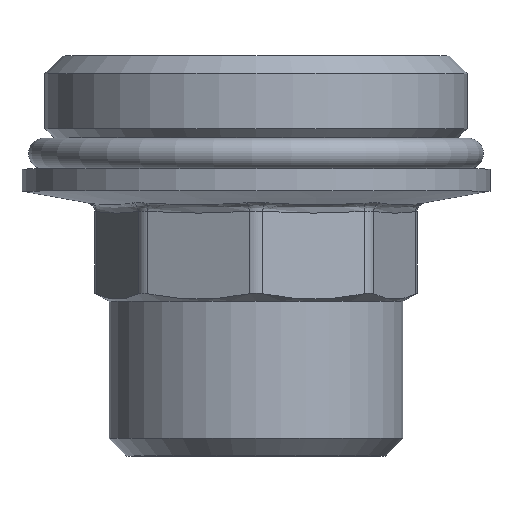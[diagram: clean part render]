
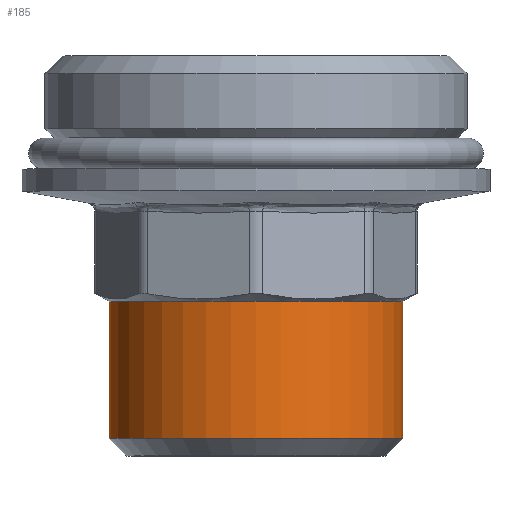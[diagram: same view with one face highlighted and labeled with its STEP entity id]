
A CAD part, top view. The second image highlights one B-rep face of the part: STEP entity #185.
In plain terms, the highlighted cylindrical face has radius 16.625 mm (diameter 33.249 mm), a full revolution.
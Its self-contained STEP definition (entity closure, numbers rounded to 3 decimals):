
#185=ADVANCED_FACE('',(#336,#338),#340,.T.);
#336=FACE_OUTER_BOUND('',#337,.T.);
#337=EDGE_LOOP('',(#1473));
#338=FACE_OUTER_BOUND('',#339,.T.);
#339=EDGE_LOOP('',(#1474));
#340=CYLINDRICAL_SURFACE('',#341,16.625);
#341=AXIS2_PLACEMENT_3D('',#342,#343,#344);
#342=CARTESIAN_POINT('',(0.,-12.5,0.));
#343=DIRECTION('',(0.,-1.,0.));
#344=DIRECTION('',(1.,0.,0.));
#1473=ORIENTED_EDGE('',*,*,#1668,.T.);
#1474=ORIENTED_EDGE('',*,*,#1666,.F.);
#1666=EDGE_CURVE('',#1771,#1771,#1772,.T.);
#1668=EDGE_CURVE('',#1775,#1775,#1776,.T.);
#1771=VERTEX_POINT('',#1954);
#1772=CIRCLE('',#1955,16.625);
#1775=VERTEX_POINT('',#1964);
#1776=CIRCLE('',#1965,16.625);
#1954=CARTESIAN_POINT('',(16.625,-28.,0.));
#1955=AXIS2_PLACEMENT_3D('',#1956,#1957,#1958);
#1956=CARTESIAN_POINT('',(0.,-28.,0.));
#1957=DIRECTION('',(0.,-1.,0.));
#1958=DIRECTION('',(1.,0.,0.));
#1964=CARTESIAN_POINT('',(16.625,-12.5,0.));
#1965=AXIS2_PLACEMENT_3D('',#1966,#1967,#1968);
#1966=CARTESIAN_POINT('',(0.,-12.5,0.));
#1967=DIRECTION('',(0.,-1.,0.));
#1968=DIRECTION('',(1.,0.,0.));
